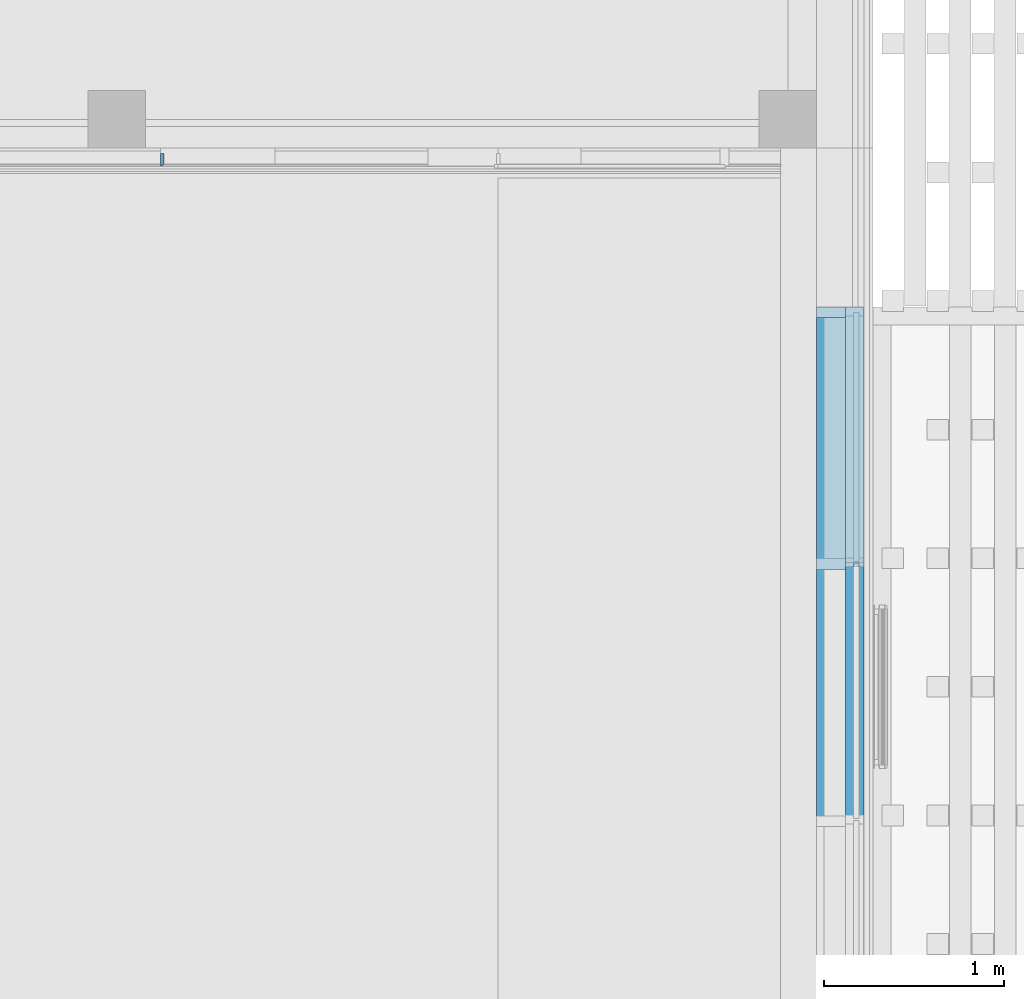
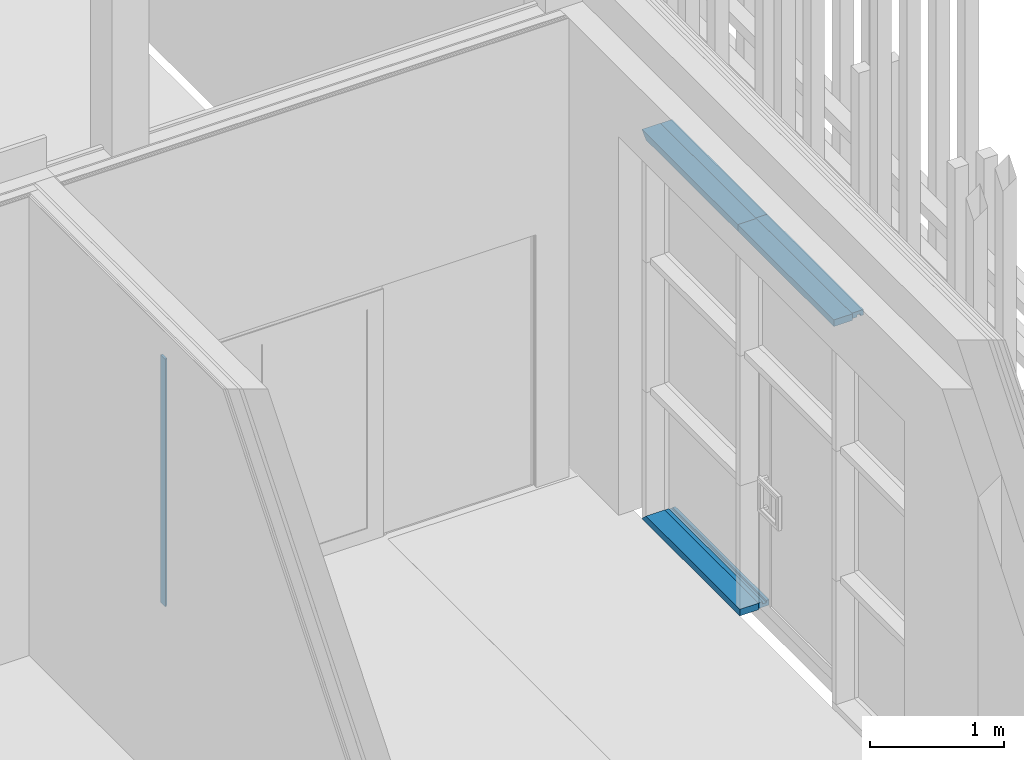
# One storey, part 91 of 260: 7 members, 3 elements without a shape of their own.
"""IFC2X3 building model written with IfcOpenShell, lengths in millimetres."""

from ifc_helpers import new_model, entity, si_unit, converted_unit, derived_unit, money_unit, direction, frame, origin_with_axes, place, context, subcontext, project, spatial, faceted_brep, material, type_object, element, aggregate, save


model = new_model("IFC2X3")

# Units and contexts
model_context = context("Model", 3, precision=0.01, world=origin_with_axes(), true_north=direction((0.0, 1.0)))
body_context = subcontext(model_context, "Body", "Model", "MODEL_VIEW")
ifc_project = project(units=[si_unit("LENGTHUNIT", "METRE", prefix="MILLI"), si_unit("AREAUNIT", "SQUARE_METRE"), si_unit("VOLUMEUNIT", "CUBIC_METRE"), converted_unit("PLANEANGLEUNIT", "DEGREE", entity("IfcPlaneAngleMeasure", 0.0174532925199), si_unit("PLANEANGLEUNIT", "RADIAN"), dimensions=[0, 0, 0, 0, 0, 0, 0]), money_unit("EUR"), converted_unit("TIMEUNIT", "Year", entity("IfcTimeMeasure", 31556926.0), si_unit("TIMEUNIT", "SECOND"), dimensions=[0, 0, 1, 0, 0, 0, 0]), si_unit("MASSUNIT", "GRAM", prefix="KILO"), si_unit("THERMODYNAMICTEMPERATUREUNIT", "DEGREE_CELSIUS"), si_unit("LUMINOUSINTENSITYUNIT", "LUMEN"), si_unit("ENERGYUNIT", "JOULE", prefix="MEGA"), derived_unit("THERMALCONDUCTANCEUNIT", [(si_unit("POWERUNIT", "WATT"), 1), (si_unit("LENGTHUNIT", "METRE"), -1), (si_unit("THERMODYNAMICTEMPERATUREUNIT", "KELVIN"), -1)]), derived_unit("SPECIFICHEATCAPACITYUNIT", [(si_unit("ENERGYUNIT", "JOULE"), 1), (si_unit("MASSUNIT", "GRAM", prefix="KILO"), -1), (si_unit("THERMODYNAMICTEMPERATUREUNIT", "KELVIN"), -1)]), derived_unit("MASSDENSITYUNIT", [(si_unit("MASSUNIT", "GRAM", prefix="KILO"), 1), (si_unit("VOLUMEUNIT", "CUBIC_METRE"), -1)])], contexts=[model_context])

# Site, building, storey
site_placement = place(None, origin_with_axes())
site = spatial("IfcSite", under=ifc_project, at=site_placement, Name="Kolde pst 67a", CompositionType="ELEMENT")
building_placement = place(site_placement, origin_with_axes())
building = spatial("IfcBuilding", under=site, at=building_placement, Name="Riigigümnaasium", CompositionType="ELEMENT")
storey_placement = place(building_placement, origin_with_axes())
storey = spatial("IfcBuildingStorey", under=building, at=storey_placement, Name="1. korrus", CompositionType="ELEMENT", Elevation=0.0)

# Curtain wall, members
curtain_wall_type = type_object("IfcCurtainWallType", Name="Curtain Wall Type", PredefinedType="NOTDEFINED")
curtain_wall_1_placement = place(storey_placement, frame((36659.99923, 65497.2568144, -5.3341346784e-05), z_axis=(0.0, 0.0, 1.0), x_axis=(1.0, 0.0, 0.0)))
curtain_wall_1 = element("IfcCurtainWall", 1, at=curtain_wall_1_placement, inside=storey, type_object=curtain_wall_type, Name="KLAASFASSAAD")
ifc_material_1 = material(Name="_METALL - alumiinium")
member_type_1 = type_object("IfcMemberType", Name="Boundary Frame 50 x 100", PredefinedType="MEMBER")
member_1_placement = place(curtain_wall_1_placement, frame((0.0, 710.2233959, 0.0), z_axis=(0.0, -1.0, 0.0), x_axis=(0.0, 0.0, 1.0)))
member_1 = element("IfcMember", 2, at=member_1_placement, type_object=member_type_1, material=ifc_material_1, Name="RF RAAM SERV-752", ObjectType="MEMBER", context=body_context, shape_type="Brep", body=[
    faceted_brep([(30.0, 16.5, 1445.4467918), (50.0, 16.5, 1445.4467918), (50.0, 60.0, 1445.4467918), (0.0, 60.0, 1445.4467918), (0.0, -40.0, 1445.4467918), (50.0, -40.0, 1445.4467918), (50.0, -16.5, 1445.4467918), (30.0, -16.5, 1445.4467918), (30.0, 16.5, 30.0), (50.0, 16.5, 50.0), (50.0, 60.0, 50.0), (0.0, 60.0, 0.0), (0.0, -40.0, 0.0), (50.0, -40.0, 50.0), (50.0, -16.5, 50.0), (30.0, -16.5, 30.0)], [[[0, 1, 2, 3, 4, 5, 6, 7]], [[0, 8, 9, 1]], [[9, 10, 2, 1]], [[2, 10, 11, 3]], [[3, 11, 12, 4]], [[4, 12, 13, 5]], [[6, 5, 13, 14]], [[14, 15, 7, 6]], [[7, 15, 8, 0]], [[8, 15, 14, 13, 12, 11, 10, 9]]]),
])
member_2_placement = place(curtain_wall_1_placement, frame((0.0, 710.2233959, 3540.00023603), z_axis=(0.0, -1.0, 0.0), x_axis=(0.0, 0.0, 1.0)))
member_2 = element("IfcMember", 3, at=member_2_placement, type_object=member_type_1, material=ifc_material_1, Name="RF RAAM SERV-760", ObjectType="MEMBER", context=body_context, shape_type="Brep", body=[
    faceted_brep([(-30.0, 16.5, 1420.4467918), (-30.0, -16.5, 1420.4467918), (-50.0, -16.5, 1420.4467918), (-50.0, -40.0, 1420.4467918), (0.0, -40.0, 1420.4467918), (0.0, 60.0, 1420.4467918), (-50.0, 60.0, 1420.4467918), (-50.0, 16.5, 1420.4467918), (-30.0, 16.5, 30.0), (-30.0, -16.5, 30.0), (-50.0, -16.5, 50.0), (-50.0, -40.0, 50.0), (0.0, -40.0, 0.0), (0.0, 60.0, 0.0), (-50.0, 60.0, 50.0), (-50.0, 16.5, 50.0)], [[[0, 1, 2, 3, 4, 5, 6, 7]], [[1, 0, 8, 9]], [[10, 2, 1, 9]], [[2, 10, 11, 3]], [[4, 3, 11, 12]], [[5, 4, 12, 13]], [[6, 5, 13, 14]], [[15, 7, 6, 14]], [[0, 7, 15, 8]], [[8, 15, 14, 13, 12, 11, 10, 9]]]),
])
member_3_placement = place(curtain_wall_1_placement, frame((0.0, -710.2233959, 3540.00023603), z_axis=(0.0, -1.0, 0.0), x_axis=(0.0, 0.0, 1.0)))
member_3 = element("IfcMember", 4, at=member_3_placement, type_object=member_type_1, material=ifc_material_1, Name="RF RAAM SERV-759", ObjectType="MEMBER", context=body_context, shape_type="Brep", body=[
    faceted_brep([(-30.0, 16.5, 1430.0), (-30.0, -16.5, 1430.0), (-50.0, -16.5, 1430.0), (-50.0, -40.0, 1430.0), (0.0, -40.0, 1430.0), (0.0, 60.0, 1430.0), (-50.0, 60.0, 1430.0), (-50.0, 16.5, 1430.0), (-30.0, 16.5, 0.0), (-30.0, -16.5, 0.0), (-50.0, -16.5, 0.0), (-50.0, -40.0, 0.0), (0.0, -40.0, 0.0), (0.0, 60.0, 0.0), (-50.0, 60.0, 0.0), (-50.0, 16.5, 0.0)], [[[0, 1, 2, 3, 4, 5, 6, 7]], [[1, 0, 8, 9]], [[10, 2, 1, 9]], [[2, 10, 11, 3]], [[12, 4, 3, 11]], [[13, 5, 4, 12]], [[14, 6, 5, 13]], [[15, 7, 6, 14]], [[0, 7, 15, 8]], [[8, 15, 14, 13, 12, 11, 10, 9]]]),
])
aggregate(curtain_wall_1, [member_1, member_2, member_3])

# Curtain wall, member
curtain_wall_2_placement = place(storey_placement, frame((33792.224013, 66989.9967931, 0.0), z_axis=(0.0, 0.0, 1.0), x_axis=(1.0, 0.0, 0.0)))
curtain_wall_2 = element("IfcCurtainWall", 5, at=curtain_wall_2_placement, inside=storey, type_object=curtain_wall_type, Name="KLAASSEIN")
ifc_material_2 = material(Name="_GENEERILINE MATERJAL")
member_type_2 = type_object("IfcMemberType", Name="Mullion Frame 20 x 70", PredefinedType="MEMBER")
member_4_placement = place(curtain_wall_2_placement, frame((-999.72428287, 0.0, 0.0), z_axis=(0.0, 0.0, 1.0), x_axis=(-1.0, 0.0, 0.0)))
member_4 = element("IfcMember", 6, at=member_4_placement, type_object=member_type_2, material=ifc_material_2, Name="RF RAAM VERT-340", ObjectType="MEMBER", context=body_context, shape_type="Brep", body=[
    faceted_brep([(-20.0, -10.0, 0.0), (-20.0, -70.0, 0.0), (-20.0, -70.0, 2250.0), (-20.0, -10.0, 2250.0), (-10.0, -10.0, 0.0), (-10.0, 0.0, 0.0), (0.0, 0.0, 0.0), (0.0, -70.0, 0.0), (0.0, -70.0, 2250.0), (-10.0, -10.0, 2250.0), (0.0, 0.0, 2250.0), (-10.0, 0.0, 2250.0)], [[[0, 1, 2, 3]], [[4, 5, 6, 7, 1, 0]], [[1, 7, 8, 2]], [[9, 3, 2, 8, 10, 11]], [[9, 4, 0, 3]], [[5, 4, 9, 11]], [[11, 10, 6, 5]], [[7, 6, 10, 8]]]),
])
aggregate(curtain_wall_2, [member_4])

# Curtain wall, members
curtain_wall_3_placement = place(storey_placement, frame((36599.99923, 65492.6817221, -5.3341346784e-05), z_axis=(0.0, 0.0, 1.0), x_axis=(1.0, 0.0, 0.0)))
curtain_wall_3 = element("IfcCurtainWall", 7, at=curtain_wall_3_placement, inside=storey, type_object=curtain_wall_type, Name="Klaasfassaadi puitkarkass")
ifc_material_3 = material(Name="_KANDETARIND - liimpuit vastavalt EK osale")
member_type_3 = type_object("IfcMemberType", Name="Boundary Frame 60 x 160", PredefinedType="MEMBER")
member_5_placement = place(curtain_wall_3_placement, frame((0.0, 714.798473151, 0.0), z_axis=(0.0, -1.0, 0.0), x_axis=(0.0, 0.0, 1.0)))
member_5 = element("IfcMember", 8, at=member_5_placement, type_object=member_type_3, material=ifc_material_3, Name="RF RAAM SERV-638", ObjectType="MEMBER", context=body_context, shape_type="Brep", body=[
    faceted_brep([(60.0, 0.0, 60.0), (60.0, 160.0, 60.0), (60.0, 160.0, 1459.5969463), (60.0, 0.0, 1459.5969463), (0.0, 0.0, 0.0), (0.0, 160.0, 0.0), (0.0, 160.0, 1459.5969463), (0.0, 0.0, 1459.5969463)], [[[0, 1, 2, 3]], [[1, 0, 4, 5]], [[1, 5, 6, 2]], [[2, 6, 7, 3]], [[4, 0, 3, 7]], [[5, 4, 7, 6]]]),
])
member_6_placement = place(curtain_wall_3_placement, frame((0.0, 714.798494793, 3540.00029996), z_axis=(0.0, -1.0, 0.0), x_axis=(0.0, 0.0, 1.0)))
member_6 = element("IfcMember", 9, at=member_6_placement, type_object=member_type_3, material=ifc_material_3, Name="RF RAAM SERV-646", ObjectType="MEMBER", context=body_context, shape_type="Brep", body=[
    faceted_brep([(-60.0, 0.0, 60.0000011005), (-60.0, 0.0, 1429.59696794), (-60.0, 160.0, 1429.59696794), (-60.0, 160.0, 60.0000011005), (0.0, 0.0, 0.0), (0.0, 0.0, 1429.59696794), (0.0, 160.0, 1429.59696794), (0.0, 160.0, 0.0)], [[[0, 1, 2, 3]], [[4, 5, 1, 0]], [[2, 1, 5, 6]], [[3, 2, 6, 7]], [[3, 7, 4, 0]], [[7, 6, 5, 4]]]),
])
member_7_placement = place(curtain_wall_3_placement, frame((0.0, -714.798473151, 3540.00029996), z_axis=(0.0, -1.0, 0.0), x_axis=(0.0, 0.0, 1.0)))
member_7 = element("IfcMember", 10, at=member_7_placement, type_object=member_type_3, material=ifc_material_3, Name="RF RAAM SERV-645", ObjectType="MEMBER", context=body_context, shape_type="Brep", body=[
    faceted_brep([(-60.0, 160.0, 0.0), (-60.0, 0.0, 0.0), (-60.0, 0.0, 1430.0), (-60.0, 160.0, 1430.0), (0.0, 160.0, 0.0), (0.0, 0.0, 0.0), (0.0, 0.0, 1430.0), (0.0, 160.0, 1430.0)], [[[0, 1, 2, 3]], [[0, 4, 5, 1]], [[1, 5, 6, 2]], [[3, 2, 6, 7]], [[4, 0, 3, 7]], [[5, 4, 7, 6]]]),
])
aggregate(curtain_wall_3, [member_5, member_6, member_7])

save(model, "model.ifc")
